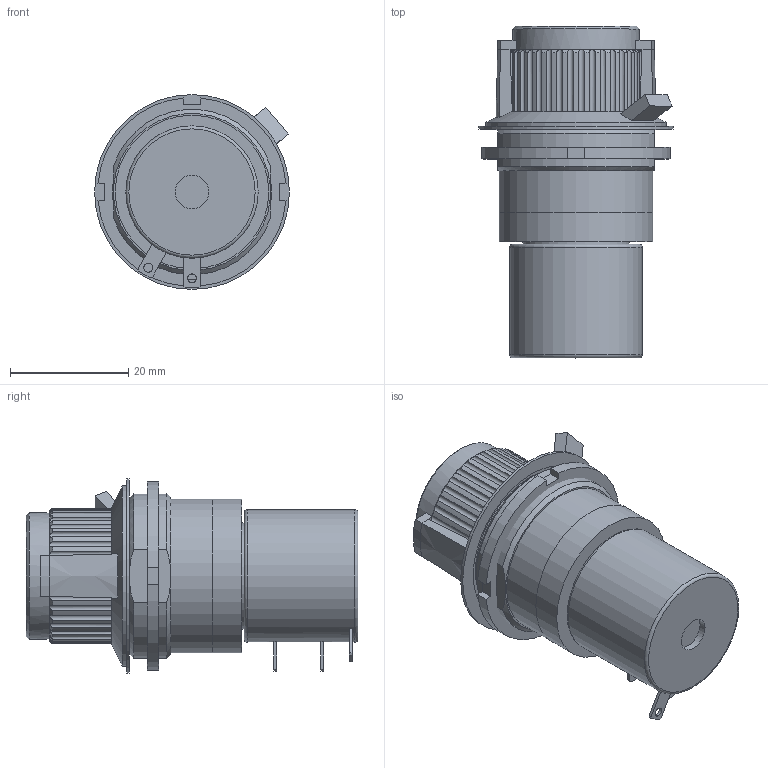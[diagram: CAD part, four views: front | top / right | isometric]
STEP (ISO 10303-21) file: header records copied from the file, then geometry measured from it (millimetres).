
FILE_DESCRIPTION (( 'STEP AP214' ), '1' );
FILE_NAME ('MDC17.STEP', '2019-05-09T07:57:26', ( '' ), ( '' ), 'SwSTEP 2.0', 'SolidWorks 2017', '' );
FILE_SCHEMA (( 'AUTOMOTIVE_DESIGN' ));
Length unit declared in the file: millimetre
Products named in the file (9): Drehknopf_MDC17XX; AL1710M; MDC17; hex nut_AL1710M; kreuznutmutter_MDC17XX; Hülse_MDC17XX; passscheibe_MDC17XX; Abstandsring_MDC17XX; Einsteller-MDC17XX
Assembly tree (8 placements, depth 3):
  MDC17
    AL1710M
    passscheibe_MDC17XX
    hex nut_AL1710M
    Abstandsring_MDC17XX
    Einsteller-MDC17XX
      Hülse_MDC17XX
      Drehknopf_MDC17XX
    kreuznutmutter_MDC17XX
Bounding box: 33 x 56.18 x 33 mm (x, y, z)
Volume: 25038.4 mm3; surface area: 11740.8 mm2
Topology: 8 solids, 8 shells, 325 faces, 847 edges, 544 vertices
Faces by surface type: plane 130, cylinder 114, cone 56, bspline 23, torus 2
Full cylindrical faces by diameter (mm): 1.5 x4, 5.7 x1, 6.35 x1, 8.5 x1, 9.5 x1, 10.3 x1, 10.4 x1, 18 x1, 21.4 x1, 22 x1, 22.4 x1, 23 x1, 26 x3, 27 x1, 28 x1, 30.5 x1, 33 x1
Entity records: 12298 total; most frequent: CARTESIAN_POINT 3961, ORIENTED_EDGE 1630, DIRECTION 1525, EDGE_CURVE 815, AXIS2_PLACEMENT_3D 586, VERTEX_POINT 542, EDGE_LOOP 391, LINE 353
